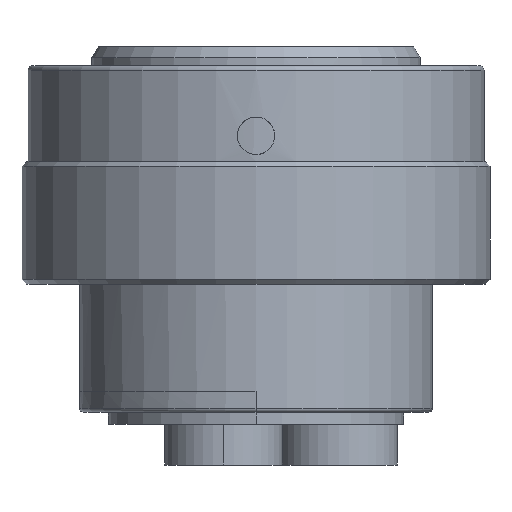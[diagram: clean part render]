
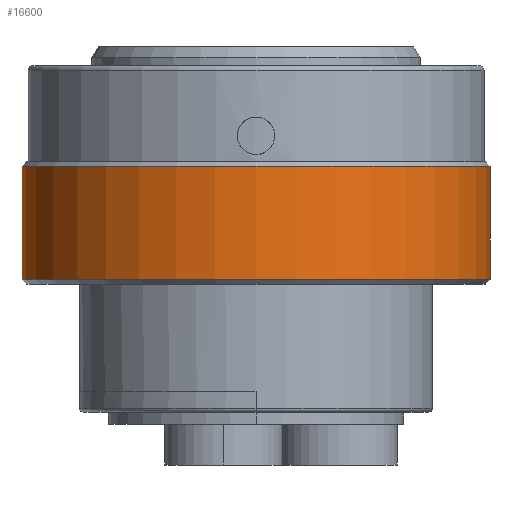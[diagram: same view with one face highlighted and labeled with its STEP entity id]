
A CAD part, left-side view. The second image highlights one B-rep face of the part: STEP entity #16600.
In plain terms, the highlighted cylindrical face has radius 24.765 mm (diameter 49.53 mm), a partial arc.
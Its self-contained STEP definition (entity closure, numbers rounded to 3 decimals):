
#6428=CARTESIAN_POINT('',(0.,0.,-10.668));
#6429=DIRECTION('',(0.,0.,1.));
#6430=DIRECTION('',(0.,1.,0.));
#6431=AXIS2_PLACEMENT_3D('',#6428,#6429,#6430);
#6433=DIRECTION('',(0.,0.,1.));
#6434=VECTOR('',#6433,11.938);
#6435=CARTESIAN_POINT('',(0.,-24.765,-22.606));
#6436=LINE('',#6435,#6434);
#6437=CARTESIAN_POINT('',(0.,0.,-22.606));
#6438=DIRECTION('',(0.,0.,1.));
#6439=DIRECTION('',(0.,1.,0.));
#6440=AXIS2_PLACEMENT_3D('',#6437,#6438,#6439);
#6442=DIRECTION('',(0.,0.,1.));
#6443=VECTOR('',#6442,11.938);
#6444=CARTESIAN_POINT('',(0.,24.765,-22.606));
#6445=LINE('',#6444,#6443);
#6640=CARTESIAN_POINT('',(0.,-24.765,-10.668));
#6641=CARTESIAN_POINT('',(0.,24.765,-10.668));
#6642=VERTEX_POINT('',#6640);
#6643=VERTEX_POINT('',#6641);
#6644=CARTESIAN_POINT('',(0.,-24.765,-22.606));
#6645=CARTESIAN_POINT('',(0.,24.765,-22.606));
#6646=VERTEX_POINT('',#6644);
#6647=VERTEX_POINT('',#6645);
#16588=CARTESIAN_POINT('',(0.,0.,1.156));
#16589=DIRECTION('',(0.,0.,-1.));
#16590=DIRECTION('',(0.,-1.,0.));
#16591=AXIS2_PLACEMENT_3D('',#16588,#16589,#16590);
#16592=CYLINDRICAL_SURFACE('',#16591,24.765);
#16593=ORIENTED_EDGE('',*,*,#16582,.T.);
#16594=ORIENTED_EDGE('',*,*,#9237,.F.);
#16596=ORIENTED_EDGE('',*,*,#16595,.F.);
#16597=ORIENTED_EDGE('',*,*,#9234,.T.);
#16598=EDGE_LOOP('',(#16593,#16594,#16596,#16597));
#16599=FACE_OUTER_BOUND('',#16598,.F.);
#16600=ADVANCED_FACE('',(#16599),#16592,.T.);
#6432=CIRCLE('',#6431,24.765);
#6441=CIRCLE('',#6440,24.765);
#9234=EDGE_CURVE('',#6647,#6643,#6445,.T.);
#9237=EDGE_CURVE('',#6646,#6642,#6436,.T.);
#16582=EDGE_CURVE('',#6643,#6642,#6432,.T.);
#16595=EDGE_CURVE('',#6647,#6646,#6441,.T.);
